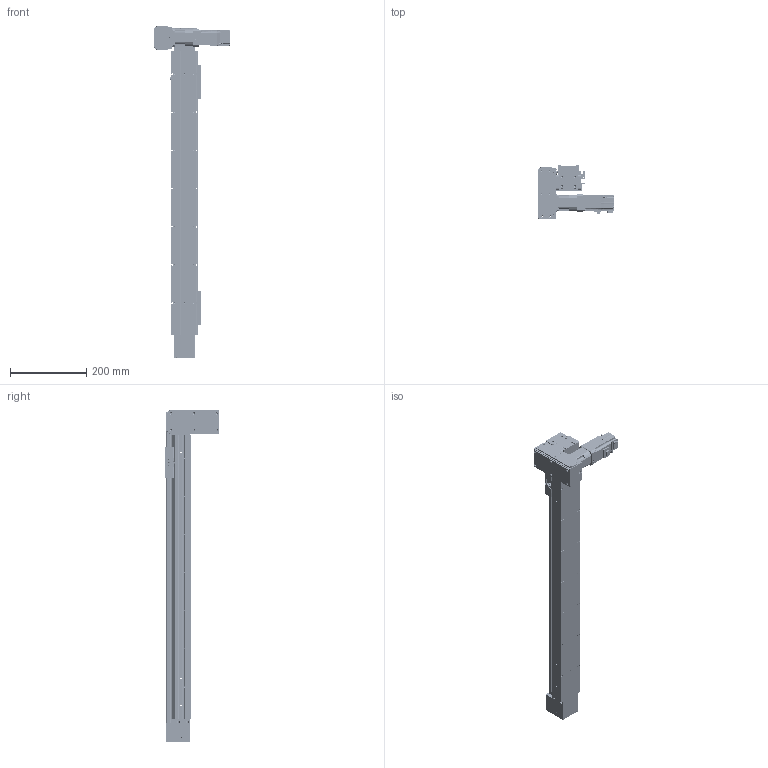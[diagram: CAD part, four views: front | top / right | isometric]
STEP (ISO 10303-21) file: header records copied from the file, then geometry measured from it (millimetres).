
FILE_DESCRIPTION(/* description */ (''),/* implementation_level */ '2;1');
FILE_NAME(/* name */ '\\192.168.0.160\disk1\HAN SHIN Master\B-설계부문\C-표준\B-2024년\BC02-표준도면\+로봇 개선표준도면\홈페이지 표준 도면\홈페이지 최종 작업 폴더\3D\HSB\HSB55\HSB55-DL1G-N-0600-R.stp',/* time_stamp */ '2025-06-19T20:33:53+09:00',/* author */ ('user'),/* organization */ (''),/* preprocessor_version */ 'ST-DEVELOPER v18.1',/* originating_system */ 'Autodesk Inventor 2022',/* authorisation */ '');
FILE_SCHEMA (('AUTOMOTIVE_DESIGN { 1 0 10303 214 3 1 1 }'));
Products named in the file (41): HSB55-DL1G-N-0500-R; HSB55 BASE; HSB55 TABLE; UPCOVER; HSB55 HOUSING (Connecting); HSB160 SHAFT-1; HSB55 FRONT HOUSIONG; HSB55 REAR SHAFT-1; HSB55 REAR SHAFT; HSB55 DOWN CLAMP; M4-25(렌치볼트); HSB55 HOUSING-R1; HSB55 TENSION PLATE; ISO 4032 - M4; HSB160 BEARING OVER; HSB55 UP CLAMP; HR45 SENSOR DOG; HR45 SENSOR RAIL; hsr_ftht_A-M6F_grease_nipple_joint; NIPPLE CAP(신규); SIDE COVER_대칭도; SIDE COVER; HR45 STOPPER; HSB55 END COVER; EC-6202ZZ; EC-6202ZZ Inner ring; EC-6202ZZ Outer ring; EC-6202ZZ St; EC-6202ZZ Ball; EC-6202ZZ B1; HSB55 ACRYL COVER-R1; HSB55 ACRYL COVER; EE_SX674A; PGX44-H-1_3; hg-kr13_; MOTOR PLATE-100W(MITSUBISHI); HR65-BELT COVER-COVER; HR65-BELT COVER-COVER3; HSB55 D MOTOR PLATE; HSB55 D BELT COVER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
Assembly tree (64 placements, depth 3):
  HSB55-DL1G-N-0500-R
    HSB55 BASE
    HSB55 TABLE
    UPCOVER
    HSB55 FRONT HOUSIONG  x2
    HSB55 HOUSING (Connecting)
    HSB160 SHAFT-1
    HSB55 REAR SHAFT-1
    #128204  x2
    HSB55 REAR SHAFT
    HSB55 DOWN CLAMP  x2
    HSB55 UP CLAMP  x2
    M4-25(렌치볼트)
    ISO 4032 - M4  x2
    HSB55 HOUSING-R1
    HSB55 TENSION PLATE  x2
    HSB160 BEARING OVER
    HR45 SENSOR DOG
    HR45 SENSOR RAIL  x2
    EE_SX674A  x3
    hsr_ftht_A-M6F_grease_nipple_joint
    NIPPLE CAP(신규)
    SIDE COVER_대칭도
    SIDE COVER
    HR45 STOPPER  x2
    HSB55 END COVER
    EC-6202ZZ  x2
      EC-6202ZZ Inner ring
      EC-6202ZZ Outer ring
      EC-6202ZZ B1
      EC-6202ZZ St
      EC-6202ZZ Ball
    HSB55 ACRYL COVER  x4
    HSB55 ACRYL COVER-R1
    PGX44-H-1_3
    hg-kr13_
    MOTOR PLATE-100W(MITSUBISHI)
    HR65-BELT COVER-COVER
    HR65-BELT COVER-COVER3
    HSB55 D MOTOR PLATE
    HSB55 D BELT COVER
    HR65-BELT COVER-COVER2  x2
Bounding box: 201.4 x 142.7 x 870 mm (x, y, z)
Volume: 1789326.5 mm3; surface area: 832486.4 mm2
Topology: 90 solids, 90 shells, 5137 faces, 14043 edges, 9203 vertices
Faces by surface type: plane 3560, cylinder 1217, cone 281, torus 35, sphere 22, bspline 22
Full cylindrical faces by diameter (mm): 1 x2, 2 x3, 2.013 x4, 2.459 x102, 2.5 x5, 3 x3, 3.242 x70, 3.3 x9, 3.4 x22, 3.5 x75, 4 x11, 4.134 x14, 4.2 x4, 4.5 x45, 4.917 x2, 5 x8, 5.5 x1, 5.6 x3, 5.9 x2, 6 x46, 6.5 x4, 7 x5, 7.5 x4, 8 x15, 8.2 x1, 9 x2, 9.5 x2, 10 x1, 11.5 x2, 12 x6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
Entity records: 128158 total; most frequent: CARTESIAN_POINT 25945, ORIENTED_EDGE 20948, DIRECTION 20559, EDGE_CURVE 10474, LINE 7507, VECTOR 7507, VERTEX_POINT 6903, AXIS2_PLACEMENT_3D 6526
